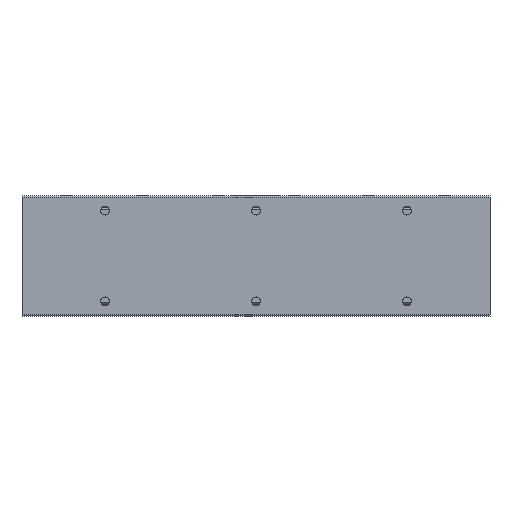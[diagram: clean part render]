
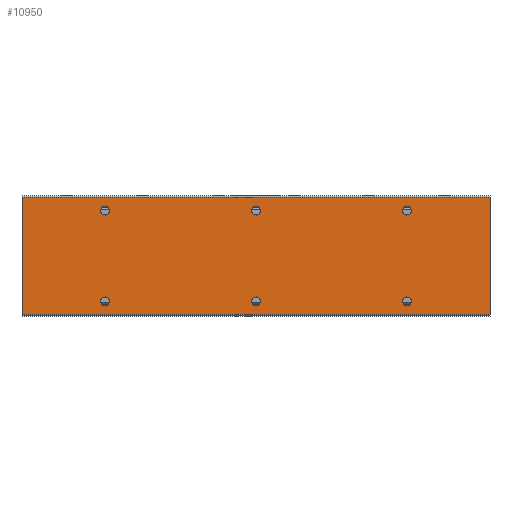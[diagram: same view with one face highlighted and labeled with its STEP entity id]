
A CAD part, front view. The second image highlights one B-rep face of the part: STEP entity #10950.
In plain terms, the highlighted planar face has unit normal (0, -1, 0).
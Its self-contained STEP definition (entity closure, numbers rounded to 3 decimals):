
#414=CIRCLE('',#11603,1.425);
#415=CIRCLE('',#11608,1.425);
#416=CIRCLE('',#11613,1.425);
#426=CIRCLE('',#11629,1.425);
#427=CIRCLE('',#11634,1.425);
#428=CIRCLE('',#11639,1.425);
#1603=ORIENTED_EDGE('',*,*,#4509,.F.);
#1604=ORIENTED_EDGE('',*,*,#4505,.F.);
#1605=ORIENTED_EDGE('',*,*,#4501,.F.);
#1606=ORIENTED_EDGE('',*,*,#4481,.F.);
#1607=ORIENTED_EDGE('',*,*,#4477,.F.);
#1608=ORIENTED_EDGE('',*,*,#4473,.F.);
#1609=ORIENTED_EDGE('',*,*,#4448,.T.);
#1610=ORIENTED_EDGE('',*,*,#4905,.F.);
#1611=ORIENTED_EDGE('',*,*,#4431,.F.);
#1612=ORIENTED_EDGE('',*,*,#4904,.T.);
#4431=EDGE_CURVE('',#6093,#6094,#7229,.T.);
#4448=EDGE_CURVE('',#6111,#6110,#7246,.T.);
#4473=EDGE_CURVE('',#6131,#6131,#414,.T.);
#4477=EDGE_CURVE('',#6134,#6134,#415,.T.);
#4481=EDGE_CURVE('',#6137,#6137,#416,.T.);
#4501=EDGE_CURVE('',#6152,#6152,#426,.T.);
#4505=EDGE_CURVE('',#6155,#6155,#427,.T.);
#4509=EDGE_CURVE('',#6158,#6158,#428,.T.);
#4904=EDGE_CURVE('',#6093,#6111,#7412,.T.);
#4905=EDGE_CURVE('',#6094,#6110,#7413,.T.);
#6093=VERTEX_POINT('',#16570);
#6094=VERTEX_POINT('',#16572);
#6110=VERTEX_POINT('',#16605);
#6111=VERTEX_POINT('',#16607);
#6131=VERTEX_POINT('',#16655);
#6134=VERTEX_POINT('',#16663);
#6137=VERTEX_POINT('',#16671);
#6152=VERTEX_POINT('',#16709);
#6155=VERTEX_POINT('',#16717);
#6158=VERTEX_POINT('',#16725);
#7229=LINE('',#16571,#8193);
#7246=LINE('',#16606,#8210);
#7412=LINE('',#17513,#8376);
#7413=LINE('',#17515,#8377);
#8193=VECTOR('',#12940,1000.);
#8210=VECTOR('',#12959,1000.);
#8376=VECTOR('',#13731,1000.);
#8377=VECTOR('',#13734,1000.);
#9195=EDGE_LOOP('',(#1603));
#9196=EDGE_LOOP('',(#1604));
#9197=EDGE_LOOP('',(#1605));
#9198=EDGE_LOOP('',(#1606));
#9199=EDGE_LOOP('',(#1607));
#9200=EDGE_LOOP('',(#1608));
#9201=EDGE_LOOP('',(#1609,#1610,#1611,#1612));
#9957=FACE_BOUND('',#9195,.T.);
#9958=FACE_BOUND('',#9196,.T.);
#9959=FACE_BOUND('',#9197,.T.);
#9960=FACE_BOUND('',#9198,.T.);
#9961=FACE_BOUND('',#9199,.T.);
#9962=FACE_BOUND('',#9200,.T.);
#9963=FACE_BOUND('',#9201,.T.);
#10674=PLANE('',#11900);
#10950=ADVANCED_FACE('',(#9957,#9958,#9959,#9960,#9961,#9962,#9963),#10674,
 .F.);
#11603=AXIS2_PLACEMENT_3D('',#16654,#12993,#12994);
#11608=AXIS2_PLACEMENT_3D('',#16662,#13003,#13004);
#11613=AXIS2_PLACEMENT_3D('',#16670,#13013,#13014);
#11629=AXIS2_PLACEMENT_3D('',#16708,#13052,#13053);
#11634=AXIS2_PLACEMENT_3D('',#16716,#13062,#13063);
#11639=AXIS2_PLACEMENT_3D('',#16724,#13072,#13073);
#11900=AXIS2_PLACEMENT_3D('',#17514,#13732,#13733);
#12940=DIRECTION('',(0.,0.,-1.));
#12959=DIRECTION('',(0.,0.,-1.));
#12993=DIRECTION('',(0.,-1.,0.));
#12994=DIRECTION('',(0.,0.,-1.));
#13003=DIRECTION('',(0.,-1.,0.));
#13004=DIRECTION('',(0.,0.,-1.));
#13013=DIRECTION('',(0.,-1.,0.));
#13014=DIRECTION('',(0.,0.,-1.));
#13052=DIRECTION('',(0.,-1.,0.));
#13053=DIRECTION('',(0.,0.,-1.));
#13062=DIRECTION('',(0.,-1.,0.));
#13063=DIRECTION('',(0.,0.,-1.));
#13072=DIRECTION('',(0.,-1.,0.));
#13073=DIRECTION('',(0.,0.,-1.));
#13731=DIRECTION('',(-1.,0.,0.));
#13732=DIRECTION('',(0.,1.,0.));
#13733=DIRECTION('',(0.,0.,1.));
#13734=DIRECTION('',(-1.,0.,0.));
#16570=CARTESIAN_POINT('',(155.,0.,19.4));
#16571=CARTESIAN_POINT('',(155.,0.,19.4));
#16572=CARTESIAN_POINT('',(155.,0.,-19.4));
#16605=CARTESIAN_POINT('',(0.,0.,-19.4));
#16606=CARTESIAN_POINT('',(0.,0.,19.4));
#16607=CARTESIAN_POINT('',(0.,0.,19.4));
#16654=CARTESIAN_POINT('',(27.5,0.,-15.));
#16655=CARTESIAN_POINT('',(27.5,0.,-16.425));
#16662=CARTESIAN_POINT('',(127.5,0.,-15.));
#16663=CARTESIAN_POINT('',(127.5,0.,-16.425));
#16670=CARTESIAN_POINT('',(77.5,0.,-15.));
#16671=CARTESIAN_POINT('',(77.5,0.,-16.425));
#16708=CARTESIAN_POINT('',(27.5,0.,15.));
#16709=CARTESIAN_POINT('',(27.5,0.,13.575));
#16716=CARTESIAN_POINT('',(127.5,0.,15.));
#16717=CARTESIAN_POINT('',(127.5,0.,13.575));
#16724=CARTESIAN_POINT('',(77.5,0.,15.));
#16725=CARTESIAN_POINT('',(77.5,0.,13.575));
#17513=CARTESIAN_POINT('',(155.,0.,19.4));
#17514=CARTESIAN_POINT('',(155.,0.,19.4));
#17515=CARTESIAN_POINT('',(155.,0.,-19.4));
